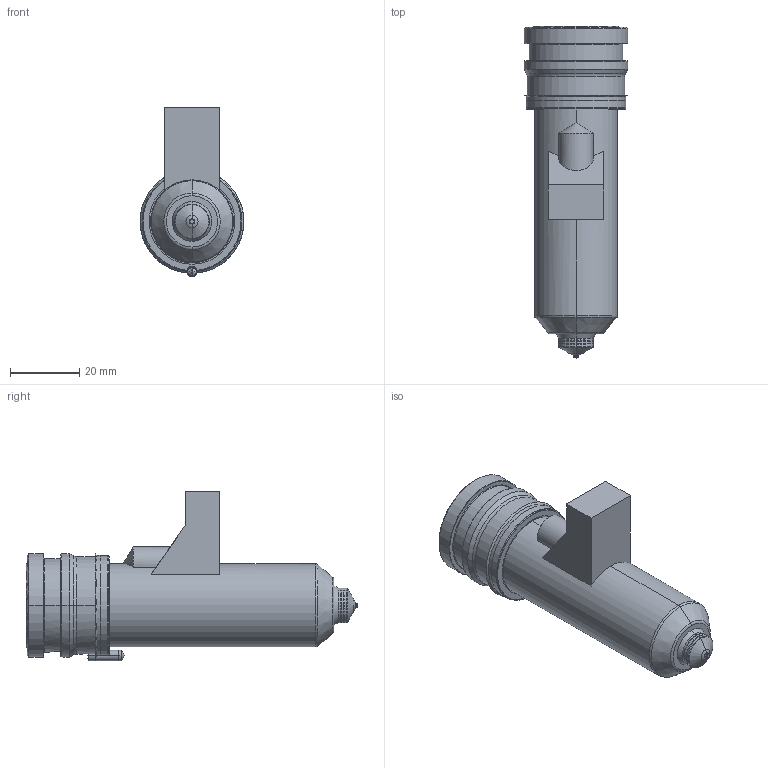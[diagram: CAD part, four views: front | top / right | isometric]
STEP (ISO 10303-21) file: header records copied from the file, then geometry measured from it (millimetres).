
FILE_DESCRIPTION((''),'2;1');
FILE_NAME('MPN-10-29-VSA10-076-M','2026-02-05T13:00:23',('UPTIO'),('Thermoplay S.p.A.'),'CREO PARAMETRIC BY PTC INC, 2023494','CREO PARAMETRIC BY PTC INC, 2023494','');
FILE_SCHEMA(('CONFIG_CONTROL_DESIGN','SHAPE_APPEARANCE_LAYERS_GROUPS'));
Length unit declared in the file: millimetre
Products named in the file (1): MPN-10-29-VSA10-076-M
Bounding box: 30 x 96 x 49 mm (x, y, z)
Volume: 31110.7 mm3; surface area: 31956.6 mm2
Topology: 3 solids, 5 shells, 546 faces, 1379 edges, 839 vertices
Faces by surface type: cylinder 181, plane 145, bspline 71, torus 69, cone 68, sphere 8, extrusion 4
Entity records: 27660 total; most frequent: CARTESIAN_POINT 11796, ORIENTED_EDGE 2744, DIRECTION 2618, EDGE_CURVE 1372, AXIS2_PLACEMENT_3D 1038, VERTEX_POINT 839, EDGE_LOOP 575, CIRCLE 566
